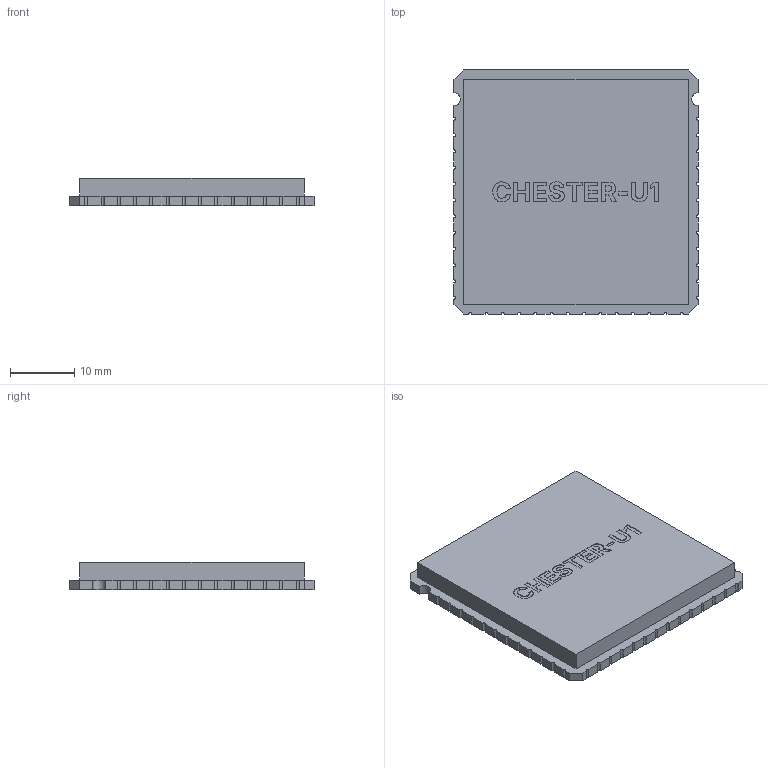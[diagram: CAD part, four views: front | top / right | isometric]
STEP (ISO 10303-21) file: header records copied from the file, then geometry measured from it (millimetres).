
FILE_DESCRIPTION(/* description */ ('STEP AP242','CAx-IF Rec.Pracs.---Representation and Presentation of Product Manufacturing Information (PMI)---4.0---2014-10-13','CAx-IF Rec.Pracs.---3D Tessellated Geometry---0.4---2014-09-14','2;1'),/* implementation_level */ '2;1');
FILE_NAME(/* name */ '67169d20d3a3ab1c273b7065',/* time_stamp */ '2024-10-21T18:27:45Z',/* author */ (''),/* organization */ (''),/* preprocessor_version */ 'ST-DEVELOPER v20',/* originating_system */ ' ',/* authorisation */ ' ');
FILE_SCHEMA (('AP242_MANAGED_MODEL_BASED_3D_ENGINEERING_MIM_LF { 1 0 10303 442 1 1 4 }'));
Length unit declared in the file: metre
Products named in the file (1): Part 1
Bounding box: 38.1 x 38.1 x 4.3 mm (x, y, z)
Volume: 5587.9 mm3; surface area: 3529.4 mm2
Topology: 1 solids, 1 shells, 273 faces, 777 edges, 518 vertices
Faces by surface type: plane 146, cylinder 105, bspline 22
Entity records: 10385 total; most frequent: CARTESIAN_POINT 1811, ORIENTED_EDGE 1554, DIRECTION 1447, EDGE_CURVE 777, LINE 523, VECTOR 523, VERTEX_POINT 518, AXIS2_PLACEMENT_3D 462
